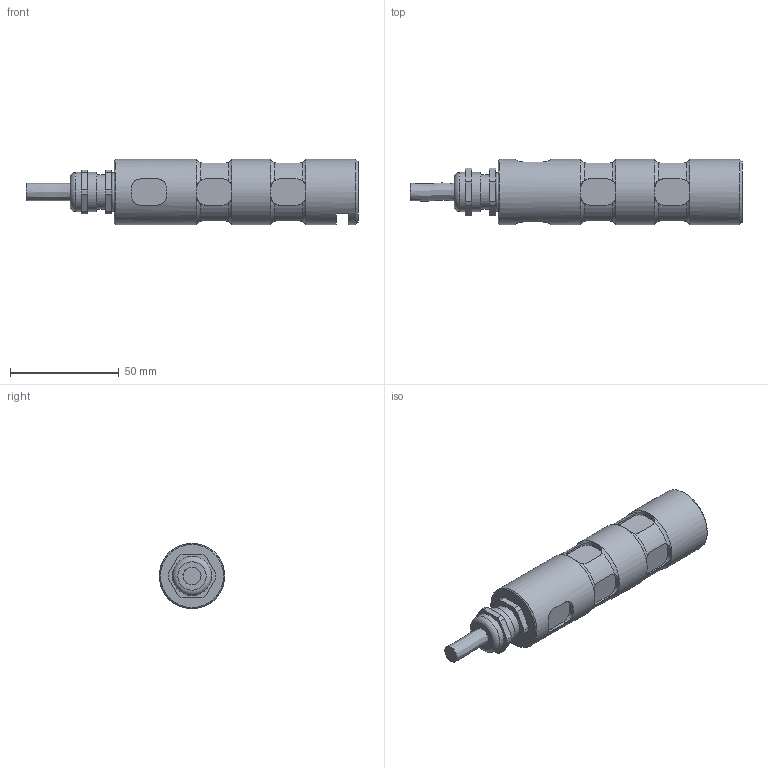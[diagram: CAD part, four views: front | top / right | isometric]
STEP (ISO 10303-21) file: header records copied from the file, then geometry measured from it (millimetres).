
FILE_DESCRIPTION(/* description */ ('Alibre Inc.'),/* implementation_level */ '2;1');
FILE_NAME(/* name */ 'export0',/* time_stamp */ '2016-07-28T11:18:43+02:00',/* author */ (''),/* organization */ (''),/* preprocessor_version */ 'ST-DEVELOPER v14',/* originating_system */ 'Alibre',/* authorisation */ '');
FILE_SCHEMA (('CONFIG_CONTROL_DESIGN'));
Length unit declared in the file: centimetre
Products named in the file (6): ID_1; ID_2; ID_3
Bounding box: 152.45 x 30 x 30 mm (x, y, z)
Volume: 78248.6 mm3; surface area: 16929.7 mm2
Topology: 4 solids, 4 shells, 212 faces, 549 edges, 353 vertices
Faces by surface type: plane 112, cylinder 77, torus 18, cone 4, bspline 1
Full cylindrical faces by diameter (mm): 8 x1, 14.376 x1, 16 x2, 18 x2, 30 x3
Entity records: 10252 total; most frequent: CARTESIAN_POINT 5032, ORIENTED_EDGE 1052, DIRECTION 765, EDGE_CURVE 526, VERTEX_POINT 348, VECTOR 299, LINE 299, AXIS2_PLACEMENT_3D 289
